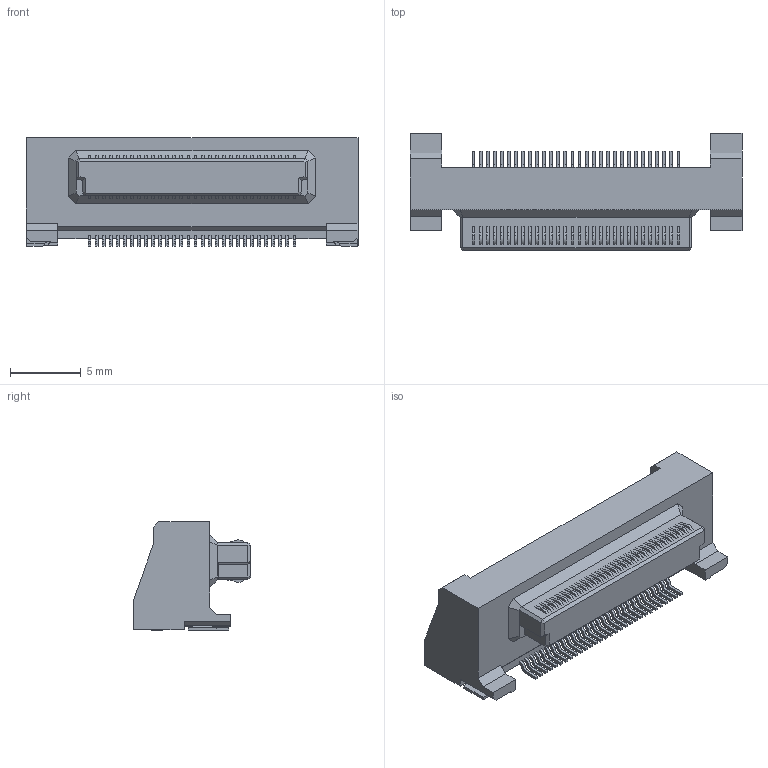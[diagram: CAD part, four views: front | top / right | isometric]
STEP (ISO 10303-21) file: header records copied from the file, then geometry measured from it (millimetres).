
FILE_DESCRIPTION(('Creo Elements/Direct Modeling STEP Export'),'2;1');
FILE_NAME('DY10-060L.stp','2017-11-30T16:11:30',(''),(''),'Creo Elements/Direct Modeling STEP processor for AP214 (Solid Model)','Creo Elements/Direct Modeling 19.0F 14-Feb-2017 (C) Parametric Technology GmbH','');
FILE_SCHEMA(('AUTOMOTIVE_DESIGN { 1 0 10303 214 1 1 1 1 }'));
Length unit declared in the file: millimetre
Products named in the file (2): DY10-060L
Assembly tree (1 placements, depth 2):
  DY10-060L
    DY10-060L
Bounding box: 23.5 x 8.3 x 7.7 mm (x, y, z)
Volume: 691.3 mm3; surface area: 840.4 mm2
Topology: 1 solids, 1 shells, 1027 faces, 2798 edges, 1836 vertices
Faces by surface type: plane 723, cylinder 304
Entity records: 31713 total; most frequent: ORIENTED_EDGE 5596, CARTESIAN_POINT 5542, DIRECTION 5279, EDGE_CURVE 2798, VECTOR 2133, LINE 2133, VERTEX_POINT 1836, AXIS2_PLACEMENT_3D 1573
